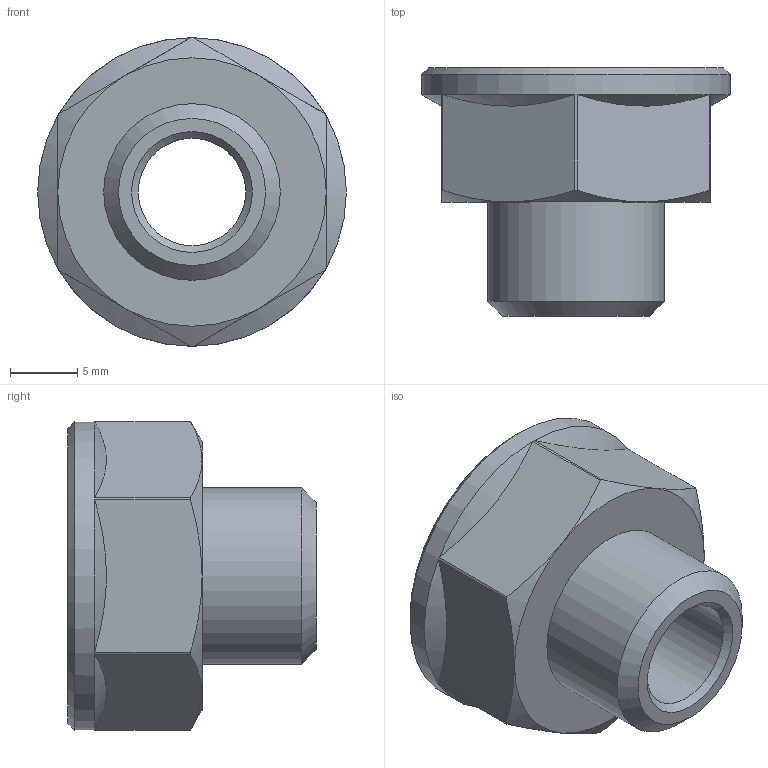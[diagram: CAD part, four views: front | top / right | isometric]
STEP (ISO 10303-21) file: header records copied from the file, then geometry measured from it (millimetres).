
FILE_DESCRIPTION(('STEP AP203'), '1');
FILE_NAME('ﾂﾐ.753138.004 - VTr.592.N.0302 ﾏ褞襄. G3-8xG1-4', '2024-07-08T08:48:10', ('Boss'), (''), 'C3D Converter', 'C3D Toolkit', '');
FILE_SCHEMA(('CONFIG_CONTROL_DESIGN'));
Length unit declared in the file: millimetre
Products named in the file (1): ВР.753138.004
Bounding box: 23 x 18.5 x 23 mm (x, y, z)
Volume: 2716.2 mm3; surface area: 2297.4 mm2
Topology: 1 solids, 1 shells, 31 faces, 70 edges, 43 vertices
Faces by surface type: cone 16, plane 10, cylinder 4, torus 1
Full cylindrical faces by diameter (mm): 8 x1, 13.157 x1, 14.95 x1, 23 x1
Entity records: 1231 total; most frequent: CARTESIAN_POINT 641, DIRECTION 118, ORIENTED_EDGE 102, AXIS2_PLACEMENT_3D 53, EDGE_CURVE 51, EDGE_LOOP 39, VERTEX_POINT 38, ADVANCED_FACE 26
